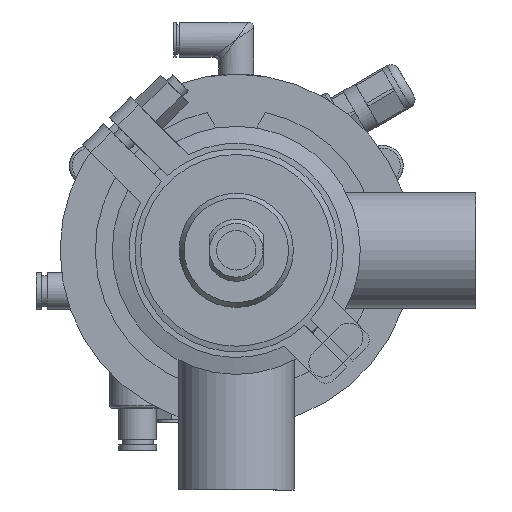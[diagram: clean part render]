
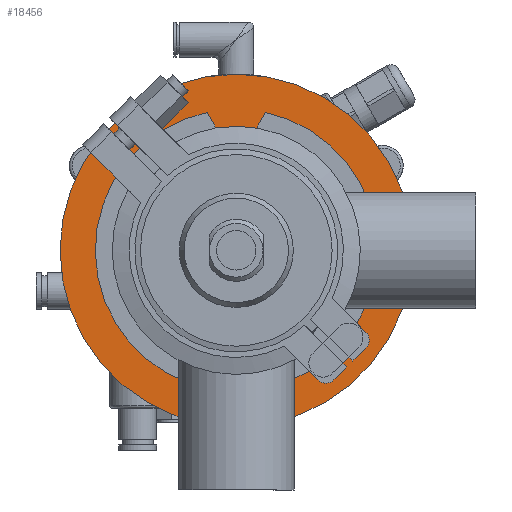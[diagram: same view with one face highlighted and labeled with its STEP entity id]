
A CAD part, front view. The second image highlights one B-rep face of the part: STEP entity #18456.
In plain terms, the highlighted planar face has unit normal (0, -1, 0).
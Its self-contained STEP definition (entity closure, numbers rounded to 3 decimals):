
#569 = CARTESIAN_POINT ( 'NONE',  ( 0., 0., 0. ) ) ;
#3383 = EDGE_CURVE ( 'NONE', #45411, #45411, #17131, .T. ) ;
#3500 = PLANE ( 'NONE',  #42984 ) ;
#17131 = CIRCLE ( 'NONE', #46818, 62.5 ) ;
#17853 = FACE_OUTER_BOUND ( 'NONE', #48747, .T. ) ;
#18456 = ADVANCED_FACE ( 'NONE', ( #17853 ), #3500, .F. ) ;
#26528 = CARTESIAN_POINT ( 'NONE',  ( 0., 0., 0. ) ) ;
#27144 = DIRECTION ( 'NONE',  ( 0., 1., 0. ) ) ;
#35038 = DIRECTION ( 'NONE',  ( 0., -1., 0. ) ) ;
#36209 = ORIENTED_EDGE ( 'NONE', *, *, #3383, .T. ) ;
#40703 = CARTESIAN_POINT ( 'NONE',  ( 0., 0., -62.5 ) ) ;
#42984 = AXIS2_PLACEMENT_3D ( 'NONE', #26528, #27144, #59752 ) ;
#43083 = DIRECTION ( 'NONE',  ( 0., 0., -1. ) ) ;
#45411 = VERTEX_POINT ( 'NONE', #40703 ) ;
#46818 = AXIS2_PLACEMENT_3D ( 'NONE', #569, #35038, #43083 ) ;
#48747 = EDGE_LOOP ( 'NONE', ( #36209 ) ) ;
#59752 = DIRECTION ( 'NONE',  ( 0., 0., 1. ) ) ;
